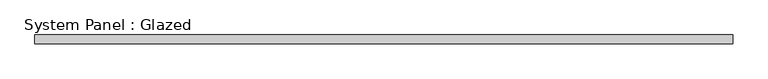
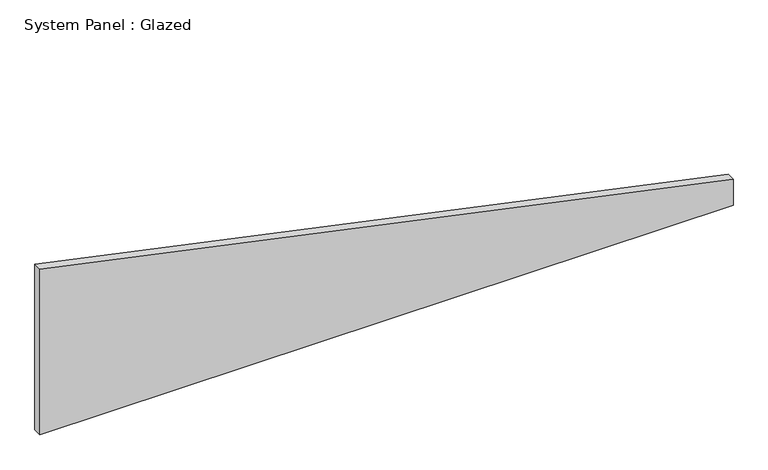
"""IFC4 building model written with IfcOpenShell, lengths in millimetres: plate geometry, System Panel : Glazed."""

from ifc_helpers import new_model, si_unit, frame, origin, place, context, project, spatial, polyline, outline, extrude, source, transform, mapped, element, save


def system_panel_glazed_a84dee68(model_context):
    return source(origin(), model_context, "Body", "SweptSolid", [
        extrude(outline(polyline([(0.0, -1000.0), (0.0, 1000.0), (79.7087106, 1000.0), (504.821834, -1000.0), (0.0, -1000.0)])), frame((0.0, 24.5, 0.0), z_axis=(0.0, 1.0, 0.0), x_axis=(0.0, 0.0, 1.0)), (0.0, 0.0, 1.0), 25.0),
    ])


if __name__ == "__main__":
    model = new_model("IFC4")
    model_context = context("Model", 3, world=origin())
    ifc_project = project(units=[si_unit("LENGTHUNIT", "METRE", prefix="MILLI")], contexts=[model_context])
    site = spatial("IfcSite", under=ifc_project)
    building = spatial("IfcBuilding", under=site)
    placement = place(None, origin())
    system_panel_glazed_shape = system_panel_glazed_a84dee68(model_context)
    element("IfcPlate", 1, ObjectType="System Panel : Glazed", at=placement, inside=building, context=model_context, shape_type="MappedRepresentation", body=[
        mapped(system_panel_glazed_shape, transform((0.0, 0.0, 0.0), x_axis=(1.0, 0.0, 0.0), y_axis=(0.0, 1.0, 0.0), z_axis=(0.0, 0.0, 1.0))),
    ])
    save(model, "model.ifc")
